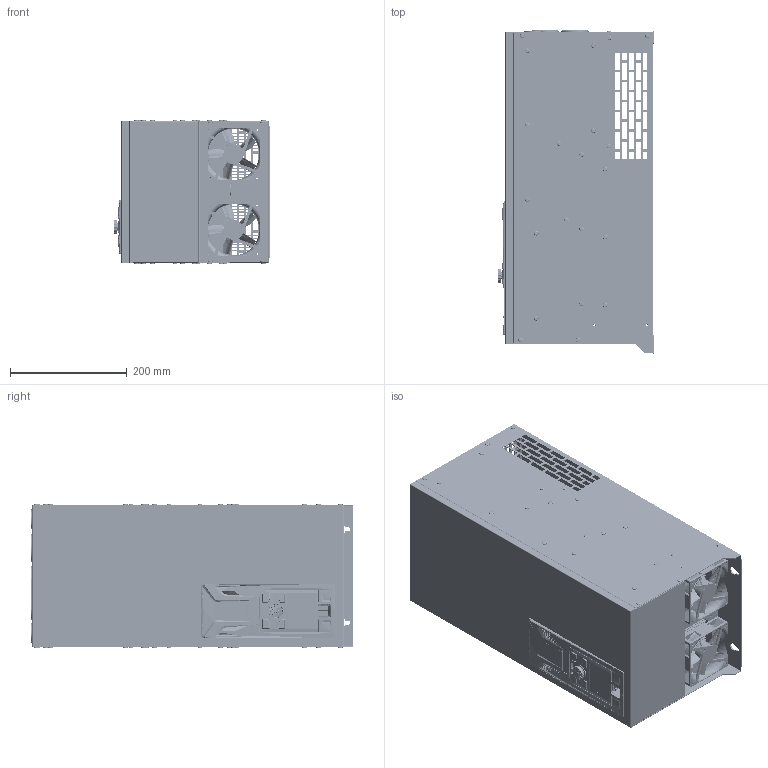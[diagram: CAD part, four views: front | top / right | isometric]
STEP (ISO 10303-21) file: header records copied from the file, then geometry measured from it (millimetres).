
FILE_DESCRIPTION((''),'2;1');
FILE_NAME('700-380-_45__ASM','2026-05-06T15:54:15',('23373'),(''),'CREO PARAMETRIC BY PTC INC, 2021023','CREO PARAMETRIC BY PTC INC, 2021023','');
FILE_SCHEMA(('AUTOMOTIVE_DESIGN { 1 0 10303 214 1 1 1 1 }'));
Products named in the file (149): CA700-45KW-SR-01_19; CA700-45KW-SR-01_ASM_13_ASM; CA700-45KW-BJ-01-01_23; CA700-45KW-BJ-01-01_ASM_21_ASM; CA700-45KW-BJ-01-02_18; S-M4-ZC_41; CA700-45KW-BJ-01-02_ASM_17_ASM; CA700-45KW-BJ-01-03_22; SO-3R5M4-17-ZC_48; SO-M5-X-ZC_48; SO-3R5M4-14-ZC_48; CA700-45KW-BJ-01-03_ASM_26_ASM; CA700-45KW-BJ-01-04_17; CA700-45KW-BJ-01-04_ASM_13_ASM; CA700-45KW-BJ-01-05_15; CA700-45KW-BJ-01-05_ASM_13_ASM; CA700-45KW-BJ-01-06_15; CA700-45KW-BJ-01-06_ASM_14_ASM; CA700-45KW-BJ-01-07_20; D4X8-GB12618-1990_2; CA700-45KW-BJ-01_ASM_32_ASM; CA700-45KW-BJ-02_15; CA700-45KW-BJ-02_ASM_13_ASM; CA700-45KW-BJ-03_22; SO-3R5M3-6-ZC_48; CA700-45KW-BJ-03_ASM_21_ASM; CA700-45KW-BJ-04_17; S-M6-ZC_41; CA700-45KW-BJ-04_ASM_16_ASM; CA700-45KW-BJ-05_13; CA700-45KW-BJ-05_ASM_14_ASM; CA700-45KW-BJ-06_18; TPS-4-8-ZC_102; CA700-45KW-BJ-06_ASM_19_ASM; CA700-45KW-BJ_ASM_39_ASM; FS150R12KT3_1; MDS200P-16_2_1; SET230_1; L03S200_1; IXA70I1200NA_1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
Assembly tree (304 placements, depth 9):
  700-380-_45__ASM
    0CA700-45KW_ASM_53_ASM
      CA700-45KW-SR-01_ASM_13_ASM
        CA700-45KW-SR-01_19
      CA700-45KW-BJ_ASM_39_ASM
        CA700-45KW-BJ-01_ASM_32_ASM
          CA700-45KW-BJ-01-01_ASM_21_ASM
            CA700-45KW-BJ-01-01_23
          CA700-45KW-BJ-01-02_ASM_17_ASM
            CA700-45KW-BJ-01-02_18
            S-M4-ZC_41  x2
          CA700-45KW-BJ-01-03_ASM_26_ASM
            CA700-45KW-BJ-01-03_22
            SO-3R5M4-17-ZC_48  x3
            SO-M5-X-ZC_48  x2
            SO-3R5M4-14-ZC_48  x5
          CA700-45KW-BJ-01-04_ASM_13_ASM  x4
            CA700-45KW-BJ-01-04_17
            S-M4-ZC_41
          CA700-45KW-BJ-01-05_ASM_13_ASM
            CA700-45KW-BJ-01-05_15
            S-M4-ZC_41  x3
          CA700-45KW-BJ-01-06_ASM_14_ASM
            CA700-45KW-BJ-01-06_15
            S-M4-ZC_41  x3
          CA700-45KW-BJ-01-07_20  x4
          D4X8-GB12618-1990_2  x45
        CA700-45KW-BJ-02_ASM_13_ASM
          CA700-45KW-BJ-02_15
          S-M4-ZC_41  x4
        CA700-45KW-BJ-03_ASM_21_ASM
          CA700-45KW-BJ-03_22
          S-M4-ZC_41
          SO-3R5M3-6-ZC_48  x3
        CA700-45KW-BJ-04_ASM_16_ASM
          CA700-45KW-BJ-04_17
          S-M4-ZC_41  x6
          S-M6-ZC_41  x2
        CA700-45KW-BJ-05_ASM_14_ASM
          CA700-45KW-BJ-05_13
          S-M4-ZC_41  x12
        CA700-45KW-BJ-06_ASM_19_ASM
          CA700-45KW-BJ-06_18
          TPS-4-8-ZC_102  x2
      CA700-45KW-QJ_ASM_19_ASM
        FS150R12KT3_1
        MDS200P-16_2_1
        SET230_1  x9
        L03S200_1  x3
        IXA70I1200NA_1  x2
        80-36_1  x2
        HXQ_40_1  x2
        251-03_1  x2
        9225_2_ASM  x2
          9225_2_1
          9225_2_2
        80W20R-2_1
      CA700-45KW-JY_ASM_19_ASM
        CA700-45KW-JY-01_19
        CA700-45KW-JY-02_6
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Bounding box: 267.73 x 554.1 x 248.4 mm (x, y, z)
Volume: 3525325.2 mm3; surface area: 4285552.7 mm2
Topology: 264 solids, 291 shells, 31224 faces, 84519 edges, 55290 vertices
Faces by surface type: plane 24960, cylinder 4289, bspline 722, cone 627, torus 244, extrusion 242, revolution 92, sphere 48
Entity records: 643734 total; most frequent: CARTESIAN_POINT 143235, ORIENTED_EDGE 85863, DIRECTION 76903, EDGE_CURVE 42974, VECTOR 32929, LINE 32687, VERTEX_POINT 27921, AXIS2_PLACEMENT_3D 21985
